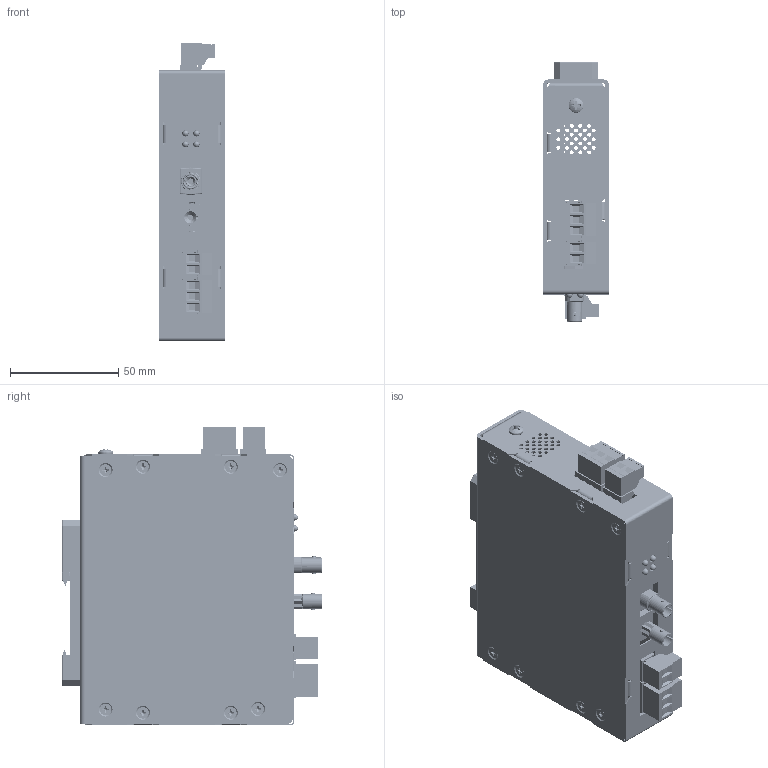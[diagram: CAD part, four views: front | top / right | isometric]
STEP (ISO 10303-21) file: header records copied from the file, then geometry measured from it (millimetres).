
FILE_DESCRIPTION(/* description */ ('STEP AP242','CAx-IF Rec.Pracs.---Representation and Presentation of Product Manufacturing Information (PMI)---4.0---2014-10-13','CAx-IF Rec.Pracs.---3D Tessellated Geometry---0.4---2014-09-14','2;1'),/* implementation_level */ '2;1');
FILE_NAME(/* name */ '618eb4dabbaff54bf59de466',/* time_stamp */ '2021-11-12T18:39:26+00:00',/* author */ (''),/* organization */ (''),/* preprocessor_version */ 'ST-DEVELOPER v18.1',/* originating_system */ ' ',/* authorisation */ ' ');
FILE_SCHEMA (('AP242_MANAGED_MODEL_BASED_3D_ENGINEERING_MIM_LF { 1 0 10303 442 1 1 4 }'));
Products named in the file (64): CD-382 - 1CD-IO-XX-1-DIN - Rev D; 96640A334_Black-Oxide 18-8 Stainless Steel Phillips Flat Head Screws; 96640A115_Black-Oxide 18-8 Stainless Steel Phillips Flat Head Screws; PRODUCT_NAME_1; 91772A144_Passivated 18-8 Stainless Steel Pan Head Phillips Screw; DINM12-RC-Assy <1>; Spring clip; spring^DINM12-RC-Assy; DINM12-RC; H-105 Rear Housing <1>; 95185A130_Zinc-Plated Steel Press-Fit Nut for Sheet Metal; Part 1; H-128 - SINGLE CONTACT CLOSURE DIN FRONT COVER Rev D <1>; PCB-1CD-XX-1 -Transmitter <1>; C-796634-3; C-796638-2; C-796638-3; HFBR-x41xTxZ; C-796634-2; HFBR-X41X <1>; HFBR-X41X Part4; HFBR-X41X Part2; HFBR-X41X Part1; HFBR-X41X Part3
Assembly tree (106 placements, depth 4):
  CD-382 - 1CD-IO-XX-1-DIN - Rev D
    96640A334_Black-Oxide 18-8 Stainless Steel Phillips Flat Head Screws  x14
    96640A115_Black-Oxide 18-8 Stainless Steel Phillips Flat Head Screws  x3
    PRODUCT_NAME_1  x4
    91772A144_Passivated 18-8 Stainless Steel Pan Head Phillips Screw
    DINM12-RC-Assy <1>
      Spring clip
      spring^DINM12-RC-Assy
      spring^DINM12-RC-Assy
      DINM12-RC
    H-105 Rear Housing <1>
      95185A130_Zinc-Plated Steel Press-Fit Nut for Sheet Metal  x3
      Part 1
    H-128 - SINGLE CONTACT CLOSURE DIN FRONT COVER Rev D <1>
      Part 1
      PRODUCT_NAME_1  x10
      PRODUCT_NAME_1
    PCB-1CD-XX-1 -Transmitter <1>
      C-796634-3  x2
      Part 1
      C-796638-2  x2
      C-796638-3  x2
      Part 1  x4
      Part 1  x2
      HFBR-x41xTxZ
      C-796634-2  x2
      HFBR-X41X <1>
        HFBR-X41X Part4
        HFBR-X41X Part2  x4
        HFBR-X41X Part4
        HFBR-X41X Part4
        HFBR-X41X Part4
        HFBR-X41X Part4
        HFBR-X41X Part4
        HFBR-X41X Part4
        HFBR-X41X Part4
        HFBR-X41X Part4
        HFBR-X41X Part4
        HFBR-X41X Part4
        HFBR-X41X Part4
        HFBR-X41X Part4
        HFBR-X41X Part4
        HFBR-X41X Part4
        HFBR-X41X Part4
        HFBR-X41X Part4
        HFBR-X41X Part4
        HFBR-X41X Part4
        HFBR-X41X Part4
        HFBR-X41X Part4
        HFBR-X41X Part4
        HFBR-X41X Part4
        HFBR-X41X Part1
        HFBR-X41X Part3  x4
        HFBR-X41X Part4
        HFBR-X41X Part4
        HFBR-X41X Part4
        HFBR-X41X Part4
        HFBR-X41X Part4
        HFBR-X41X Part4
        HFBR-X41X Part4
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Bounding box: 30.48 x 120.01 x 137.99 mm (x, y, z)
Volume: 93247.5 mm3; surface area: 123723.8 mm2
Topology: 100 solids, 101 shells, 4639 faces, 13148 edges, 8945 vertices
Faces by surface type: plane 3095, cylinder 1073, cone 223, bspline 164, torus 57, sphere 27
Full cylindrical faces by diameter (mm): 0.46 x12, 0.5 x2, 0.9 x4, 1.5 x4, 1.905 x143, 2.156 x14, 2.5 x2, 2.647 x1, 2.845 x112, 2.9 x4, 3.251 x14, 3.505 x24, 3.556 x4, 4 x13, 4.089 x4, 4.191 x10, 4.216 x14, 4.5 x1, 4.724 x1, 4.75 x1, 4.763 x3, 4.826 x3, 4.889 x10, 5.41 x8, 5.563 x13, 5.588 x10, 5.65 x1, 5.8 x1, 6.401 x1, 6.858 x1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
Entity records: 93246 total; most frequent: CARTESIAN_POINT 25870, ORIENTED_EDGE 12920, DIRECTION 12305, EDGE_CURVE 6462, VERTEX_POINT 4447, LINE 4387, VECTOR 4387, AXIS2_PLACEMENT_3D 3959
